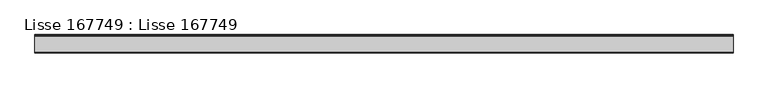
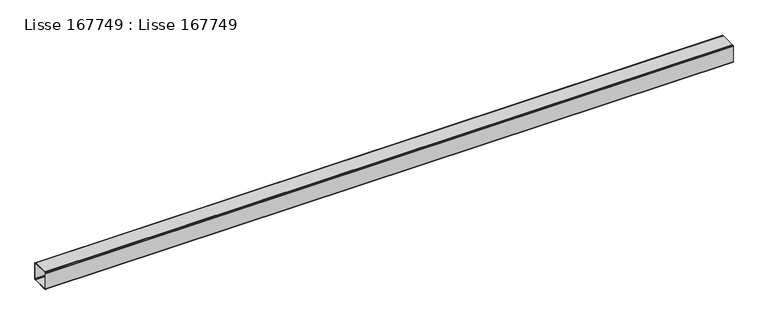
"""IFC4 building model written with IfcOpenShell, lengths in millimetres: beam geometry, Lisse 167749 : Lisse 167749."""

from ifc_helpers import new_model, si_unit, frame, origin, place, context, project, spatial, polyline, outline, extrude, source, transform, mapped, element, save


def lisse_167749_lisse_167749_6ca213e3(model_context):
    return source(origin(), model_context, "Body", "SweptSolid", [
        extrude(outline(polyline([(92.0, 3199.1961524), (94.1961524, 3197.0), (95.0, 3194.0), (95.0, 3106.0), (94.1961524, 3103.0), (92.0, 3100.8038476), (89.0, 3100.0), (1.0, 3100.0), (-2.0, 3100.8038476), (-4.1961524, 3103.0), (-5.0, 3106.0), (-5.0, 3194.0), (-4.1961524, 3197.0), (-2.0, 3199.1961524), (1.0, 3200.0), (89.0, 3200.0), (92.0, 3199.1961524)]), holes=[polyline([(89.0, 3104.5358984), (90.4641016, 3106.0), (91.0, 3108.0), (91.0, 3192.0), (90.4641016, 3194.0), (89.0, 3195.4641016), (87.0, 3196.0), (3.0, 3196.0), (1.0, 3195.4641016), (-0.4641016, 3194.0), (-1.0, 3192.0), (-1.0, 3108.0), (-0.4641016, 3106.0), (1.0, 3104.5358984), (3.0, 3104.0), (87.0, 3104.0), (89.0, 3104.5358984)])]), frame((7664.9999999, 0.0, 0.0), z_axis=(1.0, 0.0, 0.0), x_axis=(0.0, 1.0, 0.0)), (0.0, 0.0, 1.0), 3772.5),
    ])


if __name__ == "__main__":
    model = new_model("IFC4")
    model_context = context("Model", 3, world=origin())
    ifc_project = project(units=[si_unit("LENGTHUNIT", "METRE", prefix="MILLI")], contexts=[model_context])
    site = spatial("IfcSite", under=ifc_project)
    building = spatial("IfcBuilding", under=site)
    placement = place(None, origin())
    lisse_167749_lisse_167749_shape = lisse_167749_lisse_167749_6ca213e3(model_context)
    element("IfcBeam", 1, ObjectType="Lisse 167749 : Lisse 167749", at=placement, inside=building, context=model_context, shape_type="MappedRepresentation", body=[
        mapped(lisse_167749_lisse_167749_shape, transform((0.0, 0.0, 0.0), x_axis=(1.0, 0.0, 0.0), y_axis=(0.0, 1.0, 0.0), z_axis=(0.0, 0.0, 1.0))),
    ])
    save(model, "model.ifc")
